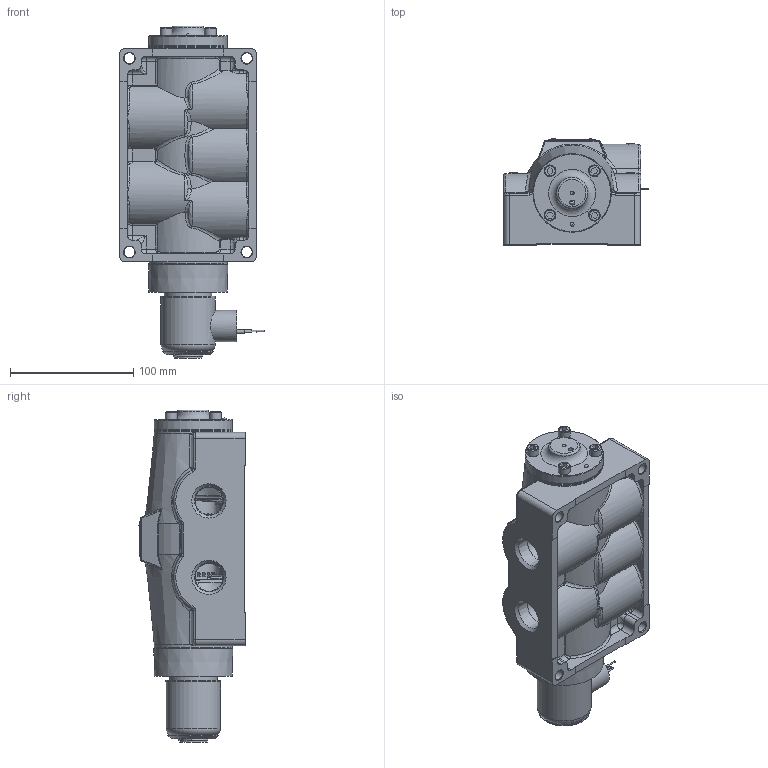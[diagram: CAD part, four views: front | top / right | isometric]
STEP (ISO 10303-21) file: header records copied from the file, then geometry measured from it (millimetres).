
FILE_DESCRIPTION(/* description */ (''),/* implementation_level */ '2;1');
FILE_NAME(/* name */ '893V.stp',/* time_stamp */ '2024-11-06T09:40:31-05:00',/* author */ ('rmckenna'),/* organization */ (''),/* preprocessor_version */ 'ST-DEVELOPER v20',/* originating_system */ 'Autodesk Inventor 2024',/* authorisation */ '');
FILE_SCHEMA (('AUTOMOTIVE_DESIGN { 1 0 10303 214 3 1 1 }'));
Products named in the file (1): Part5
Bounding box: 117.39 x 86.28 x 269.22 mm (x, y, z)
Volume: 1111269.6 mm3; surface area: 235742.1 mm2
Topology: 3 solids, 25 shells, 2085 faces, 4900 edges, 2960 vertices
Faces by surface type: plane 688, cylinder 469, cone 328, bspline 326, torus 188, sphere 86
Full cylindrical faces by diameter (mm): 1.168 x3, 2.07 x2, 2.261 x2, 2.381 x1, 2.54 x2, 2.778 x2, 3.048 x1, 3.175 x4, 3.962 x2, 3.969 x1, 4.978 x8, 5.08 x1, 6.35 x8, 7.137 x4, 7.144 x8, 7.95 x1, 8.712 x4, 9.144 x1, 9.462 x1, 9.525 x8, 11.43 x1, 11.633 x1, 11.836 x1, 12.598 x1, 12.7 x2, 13.335 x1, 13.494 x1, 14.021 x1, 14.275 x1, 14.986 x1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
Entity records: 89106 total; most frequent: CARTESIAN_POINT 41358, ORIENTED_EDGE 9650, DIRECTION 9047, EDGE_CURVE 4825, AXIS2_PLACEMENT_3D 3606, VERTEX_POINT 2959, EDGE_LOOP 2304, STYLED_ITEM 2088
